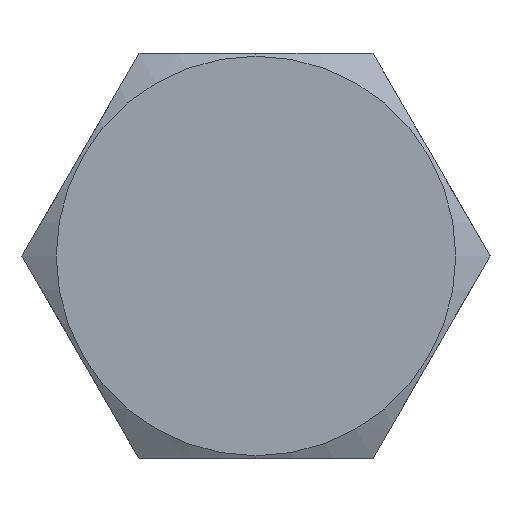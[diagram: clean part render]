
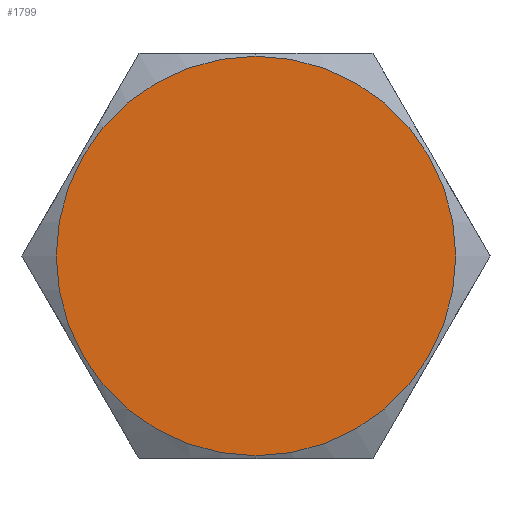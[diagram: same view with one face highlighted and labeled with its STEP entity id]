
A CAD part, left-side view. The second image highlights one B-rep face of the part: STEP entity #1799.
In plain terms, the highlighted planar face has unit normal (-1, 0, 0).
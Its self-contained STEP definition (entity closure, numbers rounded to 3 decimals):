
#243 = CIRCLE ( 'NONE', #308, 3.401 ) ;
#271 = DIRECTION ( 'NONE',  ( -1., 0., 0. ) ) ;
#294 = PLANE ( 'NONE',  #2604 ) ;
#308 = AXIS2_PLACEMENT_3D ( 'NONE', #1170, #1843, #2771 ) ;
#768 = EDGE_CURVE ( 'NONE', #2801, #770, #2574, .T. ) ;
#770 = VERTEX_POINT ( 'NONE', #2118 ) ;
#773 = EDGE_LOOP ( 'NONE', ( #2584, #2173 ) ) ;
#1170 = CARTESIAN_POINT ( 'NONE',  ( -5.4, 0., 0. ) ) ;
#1251 = DIRECTION ( 'NONE',  ( -1., 0., 0. ) ) ;
#1319 = FACE_OUTER_BOUND ( 'NONE', #773, .T. ) ;
#1712 = AXIS2_PLACEMENT_3D ( 'NONE', #2128, #1251, #2864 ) ;
#1799 = ADVANCED_FACE ( 'NONE', ( #1319 ), #294, .T. ) ;
#1843 = DIRECTION ( 'NONE',  ( -1., 0., 0. ) ) ;
#1904 = CARTESIAN_POINT ( 'NONE',  ( -5.4, -1.992, -3.45 ) ) ;
#1985 = EDGE_CURVE ( 'NONE', #770, #2801, #243, .T. ) ;
#2019 = CARTESIAN_POINT ( 'NONE',  ( -5.4, 0., -3.401 ) ) ;
#2118 = CARTESIAN_POINT ( 'NONE',  ( -5.4, 0., 3.401 ) ) ;
#2128 = CARTESIAN_POINT ( 'NONE',  ( -5.4, 0., 0. ) ) ;
#2173 = ORIENTED_EDGE ( 'NONE', *, *, #768, .T. ) ;
#2555 = DIRECTION ( 'NONE',  ( 0., 0., 1. ) ) ;
#2574 = CIRCLE ( 'NONE', #1712, 3.401 ) ;
#2584 = ORIENTED_EDGE ( 'NONE', *, *, #1985, .T. ) ;
#2604 = AXIS2_PLACEMENT_3D ( 'NONE', #1904, #271, #2555 ) ;
#2771 = DIRECTION ( 'NONE',  ( 0., 0., 1. ) ) ;
#2801 = VERTEX_POINT ( 'NONE', #2019 ) ;
#2864 = DIRECTION ( 'NONE',  ( 0., 0., 1. ) ) ;
